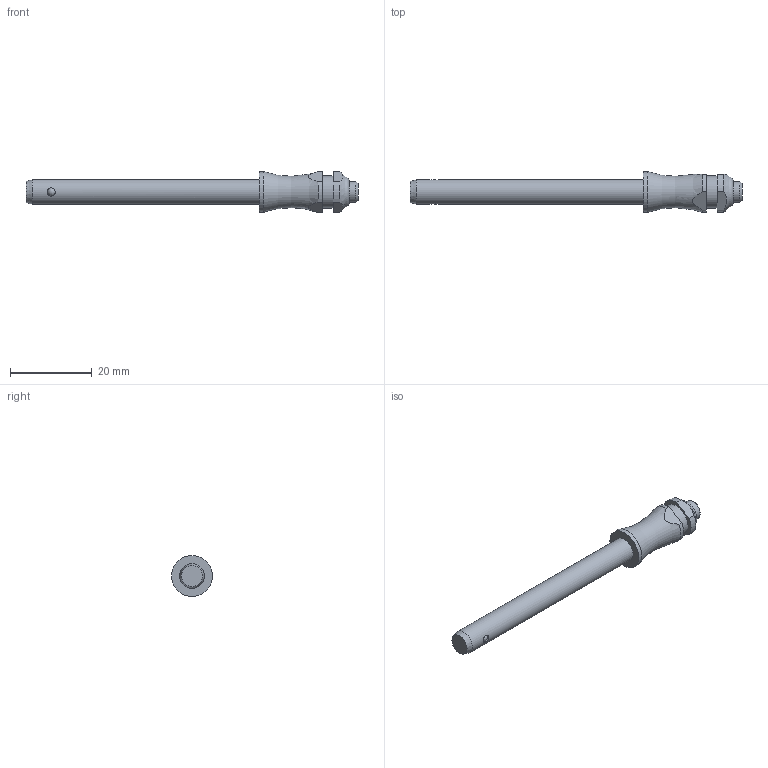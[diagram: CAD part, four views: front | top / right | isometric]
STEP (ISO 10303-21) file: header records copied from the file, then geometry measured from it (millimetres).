
FILE_DESCRIPTION( ( 'STEP AP203' ), '1' );
FILE_NAME( 'C:/Temp/Ganter_Step_05_03_2020/data/3_1/gn113_3/Stainless Steel-Ball lock pin GN 113.3-6-50 (activated).stp', '2020-03-12T08:18:19', ( 'License CC BY-ND 4.0' ), ( 'CADENAS' ), ' ', 'PARTsolutions', ' ' );
FILE_SCHEMA( ( 'CONFIG_CONTROL_DESIGN' ) );
Length unit declared in the file: millimetre
Products named in the file (1): _Stainless Steel-Ball lock pin GN 113.3-6-50 (activated)
Bounding box: 81.15 x 10 x 10 mm (x, y, z)
Volume: 2902.9 mm3; surface area: 1876.3 mm2
Topology: 1 solids, 1 shells, 31 faces, 73 edges, 46 vertices
Faces by surface type: plane 12, cylinder 12, cone 3, torus 2, sphere 2
Full cylindrical faces by diameter (mm): 2 x2, 5 x1, 6 x1, 7.9 x1, 10 x1
Entity records: 962 total; most frequent: CARTESIAN_POINT 298, DIRECTION 134, ORIENTED_EDGE 104, AXIS2_PLACEMENT_3D 58, EDGE_CURVE 52, EDGE_LOOP 48, VERTEX_POINT 40, FACE_OUTER_BOUND 39
